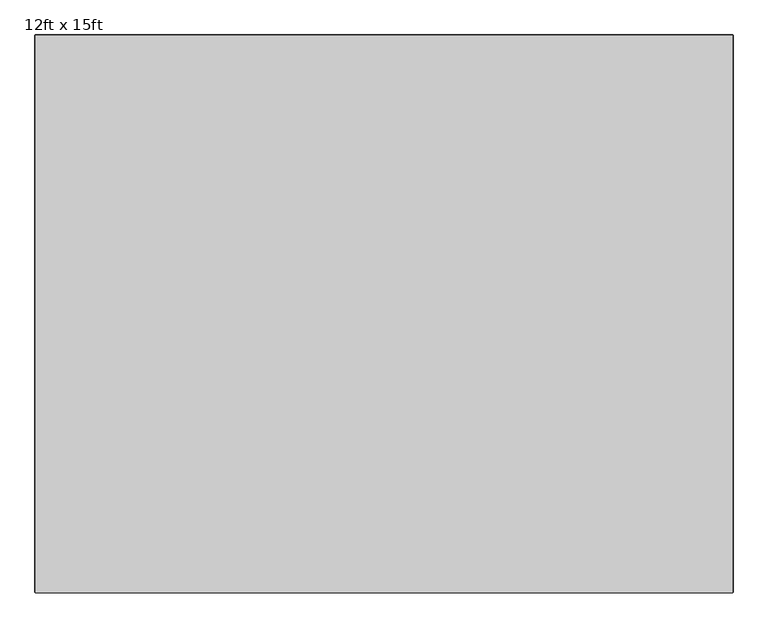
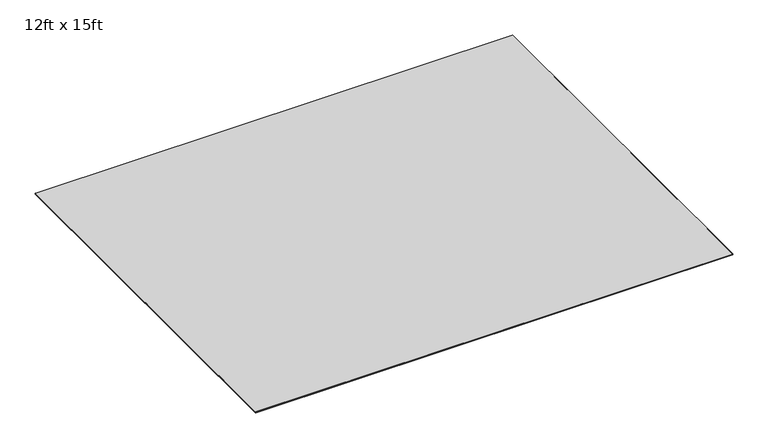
"""IFC4 building model written with IfcOpenShell, lengths in millimetres: furniture geometry, Coalesse_AM_Accessory_Rug_Nanimarquina_Mesh : 12ft x 15ft."""

from ifc_helpers import new_model, si_unit, frame, origin, place, context, project, spatial, polyline, circle_curve, source, transform, mapped, element, save
from ifc_brep_helpers import plane_surface, cylinder_surface, revolved_surface, advanced_brep


def furniture_12ft_x_15ft_39e2fe84(model_context):
    return source(origin(), model_context, "Body", "AdvancedBrep", [
        advanced_brep(
        [(-658.8809829, 798.9249977, 6.9850002), (-661.4265124, 796.3794681, 6.9850002), (-661.4265124, -2851.0550023, 6.9850002), (-658.8865124, -2853.5950023, 6.9850002), (3902.9533713, -2853.5950023, 6.9850002), (3905.4933713, -2851.0550023, 6.9850002), (3905.4933713, 796.3849977, 6.9850002), (3902.9533713, 798.9249977, 6.9850002), (-663.9665124, 796.3794681, 0.0), (-658.8809829, 801.4649977, 0.0), (3902.9533713, 801.4649977, 0.0), (3908.0333713, 796.3849977, 0.0), (3908.0333713, -2851.0550023, 0.0), (3902.9533713, -2856.1350023, 0.0), (-658.8865124, -2856.1350023, 0.0), (-663.9665124, -2851.0550023, 0.0), (-663.9665124, 796.3794681, 4.4450002), (-658.8809829, 801.4649977, 4.4450002), (-663.9665124, -2851.0550023, 4.4450002), (-658.8865124, -2856.1350023, 4.4450002), (3902.9533713, -2856.1350023, 4.4450002), (3908.0333713, -2851.0550023, 4.4450002), (3908.0333713, 796.3849977, 4.4450002), (3902.9533713, 801.4649977, 4.4450002)],
        [
            (0, 1, circle_curve(frame((-658.8809829, 796.3794681, 6.9850002), z_axis=(0.0, 0.0, 1.0), x_axis=(0.0, 1.0, 0.0)), 2.5455296)),
            (1, 2),
            (2, 3, circle_curve(frame((-658.8865124, -2851.0550023, 6.9850002), z_axis=(0.0, 0.0, 1.0), x_axis=(-1.0, 0.0, 0.0)), 2.54)),
            (3, 4),
            (4, 5, circle_curve(frame((3902.9533713, -2851.0550023, 6.9850002), z_axis=(0.0, 0.0, 1.0), x_axis=(0.0, -1.0, 0.0)), 2.54)),
            (5, 6),
            (6, 7, circle_curve(frame((3902.9533713, 796.3849977, 6.9850002), z_axis=(0.0, 0.0, 1.0), x_axis=(1.0, 0.0, 0.0)), 2.54)),
            (7, 0),
            (8, 9, circle_curve(frame((-658.8809829, 796.3794681, 0.0), z_axis=(0.0, 0.0, -1.0), x_axis=(0.0, 1.0, 0.0)), 5.0855296)),
            (9, 10),
            (10, 11, circle_curve(frame((3902.9533713, 796.3849977, 0.0), z_axis=(0.0, 0.0, -1.0), x_axis=(1.0, 0.0, 0.0)), 5.08)),
            (11, 12),
            (12, 13, circle_curve(frame((3902.9533713, -2851.0550023, 0.0), z_axis=(0.0, 0.0, -1.0), x_axis=(0.0, -1.0, 0.0)), 5.08)),
            (13, 14),
            (14, 15, circle_curve(frame((-658.8865124, -2851.0550023, 0.0), z_axis=(0.0, 0.0, -1.0), x_axis=(-1.0, 0.0, 0.0)), 5.08)),
            (15, 8),
            (16, 17, circle_curve(frame((-658.8809829, 796.3794681, 4.4450002), z_axis=(0.0, 0.0, -1.0), x_axis=(0.0, 1.0, 0.0)), 5.0855296)),
            (17, 9),
            (8, 16),
            (16, 1),
            (0, 17),
            (15, 18),
            (18, 16),
            (18, 2),
            (14, 19),
            (19, 18, circle_curve(frame((-658.8865124, -2851.0550023, 4.4450002), z_axis=(0.0, 0.0, -1.0), x_axis=(-1.0, 0.0, 0.0)), 5.08)),
            (19, 3),
            (13, 20),
            (20, 19),
            (20, 4),
            (12, 21),
            (21, 20, circle_curve(frame((3902.9533713, -2851.0550023, 4.4450002), z_axis=(0.0, 0.0, -1.0), x_axis=(0.0, -1.0, 0.0)), 5.08)),
            (21, 5),
            (11, 22),
            (22, 21),
            (22, 6),
            (10, 23),
            (23, 22, circle_curve(frame((3902.9533713, 796.3849977, 4.4450002), z_axis=(0.0, 0.0, -1.0), x_axis=(1.0, 0.0, 0.0)), 5.08)),
            (23, 7),
            (17, 23),
        ],
        [
            plane_surface(frame((-658.8809829, 798.9249977, 6.9850002), z_axis=(0.0, 0.0, 1.0), x_axis=(-1.0, 0.0, 0.0))),
            plane_surface(frame((-658.8809829, 798.9249977, 0.0), z_axis=(0.0, 0.0, -1.0), x_axis=(1.0, 0.0, 0.0))),
            cylinder_surface(frame((-658.8809829, 796.3794681, 0.0), z_axis=(0.0, 0.0, 1.0), x_axis=(0.0, 1.0, 0.0)), 5.0855296),
            revolved_surface(polyline([(-658.8809829, 801.4649977, 4.4450002), (-658.8809829, 798.9249977, 6.9850002)]), (-658.8809829, 796.3794681, 0.0), (0.0, 0.0, 1.0)),
            plane_surface(frame((-663.9665124, 796.3794681, 0.0), z_axis=(-1.0, 0.0, 0.0), x_axis=(0.0, -1.0, 0.0))),
            plane_surface(frame((-663.9665124, 796.3794681, 4.4450002), z_axis=(-0.7071067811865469, 0.0, 0.7071067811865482), x_axis=(0.0, -1.0, 0.0))),
            cylinder_surface(frame((-658.8865124, -2851.0550023, 0.0), z_axis=(0.0, 0.0, 1.0), x_axis=(-1.0, 0.0, 0.0)), 5.08),
            revolved_surface(polyline([(-663.9665124, -2851.0550023, 4.4450002), (-661.4265124, -2851.0550023, 6.9850002)]), (-658.8865124, -2851.0550023, 0.0), (0.0, 0.0, 1.0)),
            plane_surface(frame((-658.8865124, -2856.1350023, 0.0), z_axis=(0.0, -1.0, 0.0), x_axis=(1.0, 0.0, 0.0))),
            plane_surface(frame((-658.8865124, -2856.1350023, 4.4450002), z_axis=(0.0, -0.7071067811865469, 0.7071067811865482), x_axis=(1.0, 0.0, 0.0))),
            cylinder_surface(frame((3902.9533713, -2851.0550023, 0.0), z_axis=(0.0, 0.0, 1.0), x_axis=(0.0, -1.0, 0.0)), 5.08),
            revolved_surface(polyline([(3902.9533713, -2856.1350023, 4.4450002), (3902.9533713, -2853.5950023, 6.9850002)]), (3902.9533713, -2851.0550023, 0.0), (0.0, 0.0, 1.0)),
            plane_surface(frame((3908.0333713, -2851.0550023, 0.0), z_axis=(1.0, 0.0, 0.0), x_axis=(0.0, 1.0, 0.0))),
            plane_surface(frame((3908.0333713, -2851.0550023, 4.4450002), z_axis=(0.7071067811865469, 0.0, 0.7071067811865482), x_axis=(0.0, 1.0, 0.0))),
            cylinder_surface(frame((3902.9533713, 796.3849977, 0.0), z_axis=(0.0, 0.0, 1.0), x_axis=(1.0, 0.0, 0.0)), 5.08),
            revolved_surface(polyline([(3908.0333713, 796.3849977, 4.4450002), (3905.4933713, 796.3849977, 6.9850002)]), (3902.9533713, 796.3849977, 0.0), (0.0, 0.0, 1.0)),
            plane_surface(frame((3902.9533713, 801.4649977, 0.0), z_axis=(0.0, 1.0, 0.0), x_axis=(-1.0, 0.0, 0.0))),
            plane_surface(frame((3902.9533713, 801.4649977, 4.4450002), z_axis=(0.0, 0.7071067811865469, 0.7071067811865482), x_axis=(-1.0, 0.0, 0.0))),
        ],
        [
            (0, [[1, 2, 3, 4, 5, 6, 7, 8]]),
            (1, [[9, 10, 11, 12, 13, 14, 15, 16]]),
            (2, [[17, 18, -9, 19]]),
            (3, [[-17, 20, -1, 21]]),
            (4, [[-19, -16, 22, 23]]),
            (5, [[-20, -23, 24, -2]]),
            (6, [[-22, -15, 25, 26]]),
            (7, [[-24, -26, 27, -3]]),
            (8, [[-25, -14, 28, 29]]),
            (9, [[-27, -29, 30, -4]]),
            (10, [[-28, -13, 31, 32]]),
            (11, [[-30, -32, 33, -5]]),
            (12, [[-31, -12, 34, 35]]),
            (13, [[-33, -35, 36, -6]]),
            (14, [[-34, -11, 37, 38]]),
            (15, [[-36, -38, 39, -7]]),
            (16, [[-18, 40, -37, -10]]),
            (17, [[-21, -8, -39, -40]]),
        ],
    ),
    ])


if __name__ == "__main__":
    model = new_model("IFC4")
    model_context = context("Model", 3, world=origin())
    ifc_project = project(units=[si_unit("LENGTHUNIT", "METRE", prefix="MILLI")], contexts=[model_context])
    site = spatial("IfcSite", under=ifc_project)
    building = spatial("IfcBuilding", under=site)
    placement = place(None, origin())
    furniture_12ft_x_15ft_shape = furniture_12ft_x_15ft_39e2fe84(model_context)
    element("IfcFurniture", 1, ObjectType="Coalesse_AM_Accessory_Rug_Nanimarquina_Mesh : 12ft x 15ft", at=placement, inside=building, context=model_context, shape_type="MappedRepresentation", body=[
        mapped(furniture_12ft_x_15ft_shape, transform((0.0, 0.0, 0.0), x_axis=(1.0, 0.0, 0.0), y_axis=(0.0, 1.0, 0.0), z_axis=(0.0, 0.0, 1.0))),
    ])
    save(model, "model.ifc")
